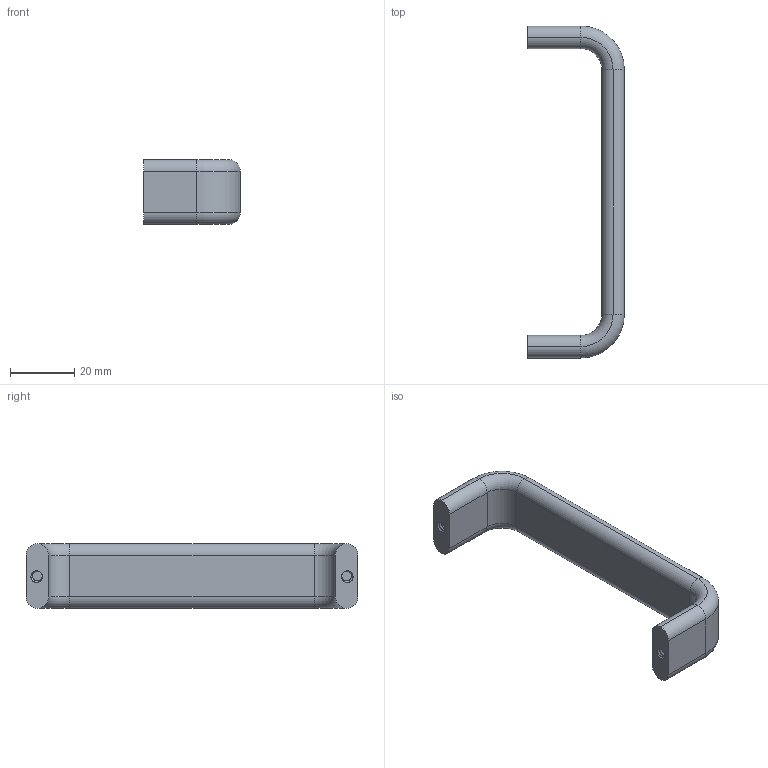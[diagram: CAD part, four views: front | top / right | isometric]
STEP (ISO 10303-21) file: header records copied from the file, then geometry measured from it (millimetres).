
FILE_DESCRIPTION (( 'STEP AP203' ), '1' );
FILE_NAME ('197-CE-HDF-96.STEP', '2015-07-09T09:22:03', ( '' ), ( '' ), 'SwSTEP 2.0', 'SolidWorks 2013', '' );
FILE_SCHEMA (( 'CONFIG_CONTROL_DESIGN' ));
Length unit declared in the file: millimetre
Products named in the file (1): 197-CE-HDF-96
Bounding box: 30 x 103 x 20 mm (x, y, z)
Volume: 18080 mm3; surface area: 7181.4 mm2
Topology: 1 solids, 1 shells, 60 faces, 144 edges, 88 vertices
Faces by surface type: cylinder 38, plane 10, torus 8, bspline 4
Entity records: 3131 total; most frequent: CARTESIAN_POINT 1801, ORIENTED_EDGE 288, DIRECTION 244, EDGE_CURVE 144, AXIS2_PLACEMENT_3D 97, VERTEX_POINT 88, EDGE_LOOP 62, ADVANCED_FACE 60
